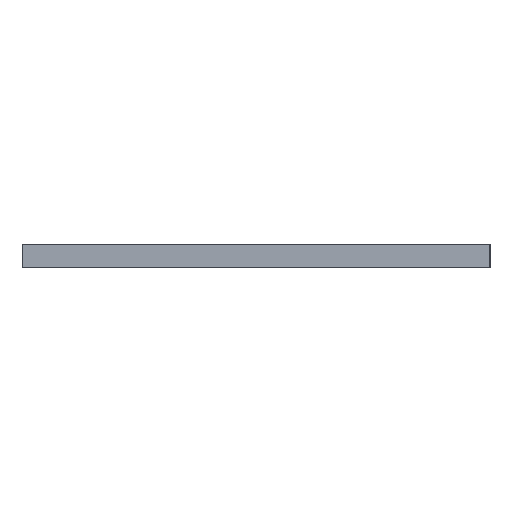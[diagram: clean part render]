
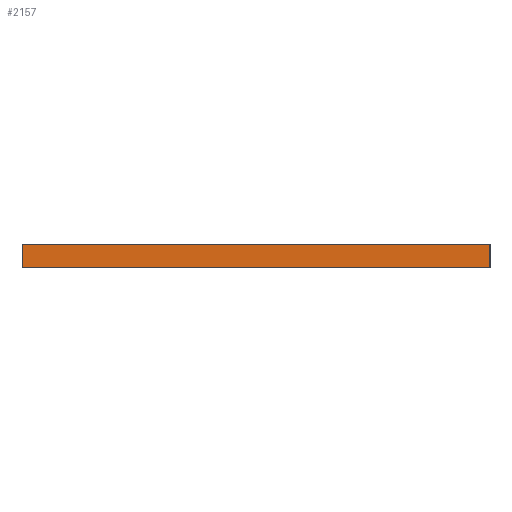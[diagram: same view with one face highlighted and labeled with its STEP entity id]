
A CAD part, left-side view. The second image highlights one B-rep face of the part: STEP entity #2157.
In plain terms, the highlighted planar face has unit normal (-1, 0, 0).
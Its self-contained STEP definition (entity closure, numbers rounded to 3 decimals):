
#89 = VERTEX_POINT ( 'NONE', #4418 ) ;
#116 = VERTEX_POINT ( 'NONE', #4440 ) ;
#169 = VERTEX_POINT ( 'NONE', #4545 ) ;
#245 = AXIS2_PLACEMENT_3D ( 'NONE', #3843, #3855, #3856 ) ;
#321 = DIRECTION ( 'NONE',  ( 0., -1., 0. ) ) ;
#376 = CARTESIAN_POINT ( 'NONE',  ( -20., 20., 0. ) ) ;
#562 = CARTESIAN_POINT ( 'NONE',  ( -20., 20., 2. ) ) ;
#573 = DIRECTION ( 'NONE',  ( 0., -1., 0. ) ) ;
#734 = LINE ( 'NONE', #562, #762 ) ;
#762 = VECTOR ( 'NONE', #573, 1000. ) ;
#803 = LINE ( 'NONE', #376, #853 ) ;
#853 = VECTOR ( 'NONE', #321, 1000. ) ;
#884 = VECTOR ( 'NONE', #1762, 1000. ) ;
#911 = LINE ( 'NONE', #1404, #884 ) ;
#918 = LINE ( 'NONE', #934, #922 ) ;
#922 = VECTOR ( 'NONE', #964, 1000. ) ;
#934 = CARTESIAN_POINT ( 'NONE',  ( -20., -20., 2. ) ) ;
#964 = DIRECTION ( 'NONE',  ( 0., 0., -1. ) ) ;
#1039 = CARTESIAN_POINT ( 'NONE',  ( -20., 20., 0. ) ) ;
#1404 = CARTESIAN_POINT ( 'NONE',  ( -20., 20., 2. ) ) ;
#1762 = DIRECTION ( 'NONE',  ( 0., 0., -1. ) ) ;
#2157 = ADVANCED_FACE ( 'NONE', ( #2983 ), #3862, .F. ) ;
#2506 = EDGE_CURVE ( 'NONE', #89, #116, #734, .T. ) ;
#2562 = EDGE_CURVE ( 'NONE', #3293, #169, #803, .T. ) ;
#2602 = EDGE_CURVE ( 'NONE', #89, #3293, #911, .T. ) ;
#2611 = EDGE_CURVE ( 'NONE', #116, #169, #918, .T. ) ;
#2747 = EDGE_LOOP ( 'NONE', ( #3430, #3487, #3442, #3505 ) ) ;
#2983 = FACE_OUTER_BOUND ( 'NONE', #2747, .T. ) ;
#3293 = VERTEX_POINT ( 'NONE', #1039 ) ;
#3430 = ORIENTED_EDGE ( 'NONE', *, *, #2562, .T. ) ;
#3442 = ORIENTED_EDGE ( 'NONE', *, *, #2506, .F. ) ;
#3487 = ORIENTED_EDGE ( 'NONE', *, *, #2611, .F. ) ;
#3505 = ORIENTED_EDGE ( 'NONE', *, *, #2602, .T. ) ;
#3843 = CARTESIAN_POINT ( 'NONE',  ( -20., 20., 2. ) ) ;
#3855 = DIRECTION ( 'NONE',  ( 1., 0., 0. ) ) ;
#3856 = DIRECTION ( 'NONE',  ( 0., 1., 0. ) ) ;
#3862 = PLANE ( 'NONE',  #245 ) ;
#4418 = CARTESIAN_POINT ( 'NONE',  ( -20., 20., 2. ) ) ;
#4440 = CARTESIAN_POINT ( 'NONE',  ( -20., -20., 2. ) ) ;
#4545 = CARTESIAN_POINT ( 'NONE',  ( -20., -20., 0. ) ) ;
